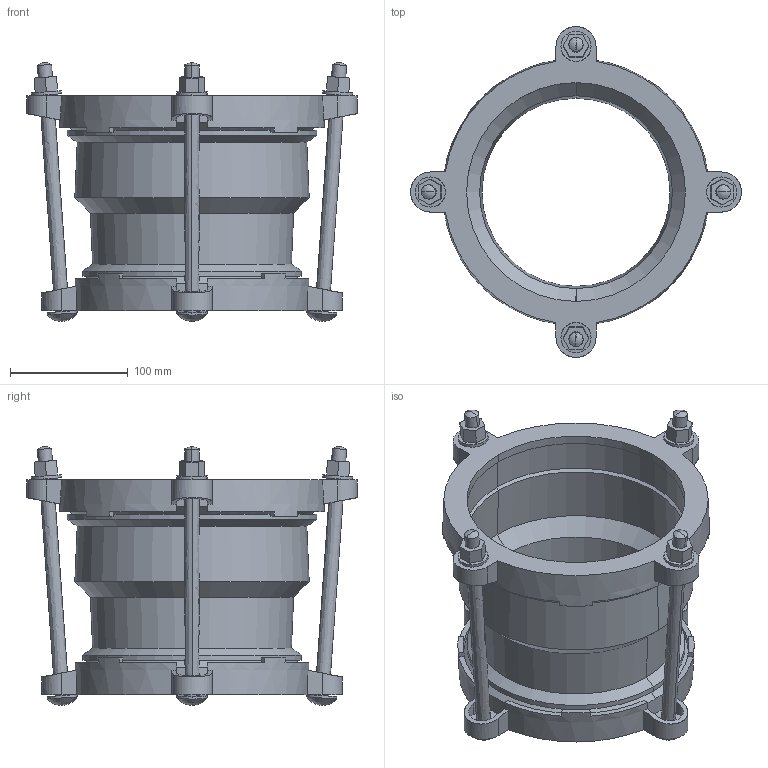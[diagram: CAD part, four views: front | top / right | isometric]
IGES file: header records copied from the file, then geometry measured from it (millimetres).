
Start section:  PTC IGES file: stepped_maxifit_158-158.igs
Global section: file name: stepped_maxifit_158-158.igs; native system: Creo Parametric by PTC Inc.; preprocessor: 2016130; author: MReader; organization: Unknown; date: 20181010.102127; units: millimetre
Bounding box: 280.5 x 280.5 x 219.44 mm (x, y, z)
Surface area: 359437.7 mm2 (no closed solid volume)
Topology: 0 solids, 0 shells, 282 faces, 1448 edges, 1432 vertices
Faces by surface type: revolution 160, bspline 122
